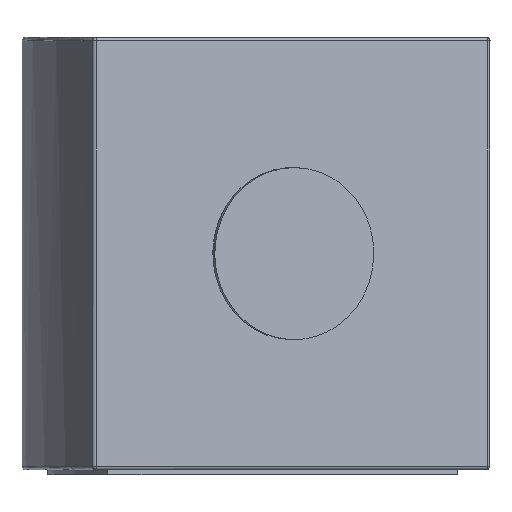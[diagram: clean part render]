
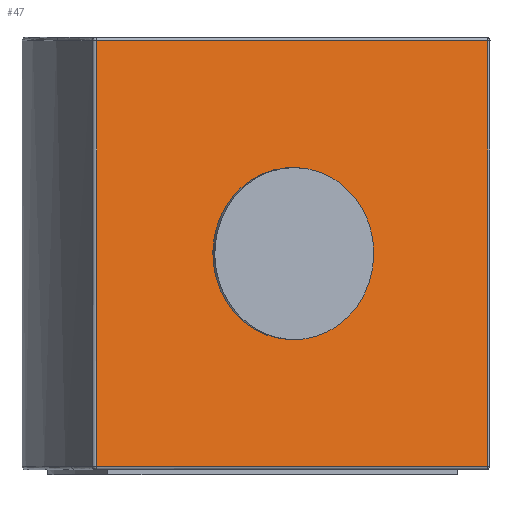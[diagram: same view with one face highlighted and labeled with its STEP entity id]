
A CAD part, left-side view. The second image highlights one B-rep face of the part: STEP entity #47.
In plain terms, the highlighted planar face has unit normal (-0.924, -0.383, 0).
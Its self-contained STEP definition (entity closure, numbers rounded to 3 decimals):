
#47=ADVANCED_FACE('',(#85),#444,.T.);
#85=FACE_OUTER_BOUND('',#123,.T.);
#123=EDGE_LOOP('',(#213,#214,#215,#216));
#213=ORIENTED_EDGE('',*,*,#312,.T.);
#214=ORIENTED_EDGE('',*,*,#313,.T.);
#215=ORIENTED_EDGE('',*,*,#311,.F.);
#216=ORIENTED_EDGE('',*,*,#282,.F.);
#282=EDGE_CURVE('',#411,#410,#340,.T.);
#311=EDGE_CURVE('',#410,#426,#351,.T.);
#312=EDGE_CURVE('',#411,#427,#352,.T.);
#313=EDGE_CURVE('',#427,#426,#353,.T.);
#340=B_SPLINE_CURVE_WITH_KNOTS('',1,(#914,#915),.UNSPECIFIED.,.F.,.F.,(2,
2),(-1.,0.),.UNSPECIFIED.);
#351=B_SPLINE_CURVE_WITH_KNOTS('',1,(#1042,#1043),.UNSPECIFIED.,.F.,.F.,
(2,2),(-1.,0.),.UNSPECIFIED.);
#352=B_SPLINE_CURVE_WITH_KNOTS('',1,(#1044,#1045),.UNSPECIFIED.,.F.,.F.,
(2,2),(0.,1.),.UNSPECIFIED.);
#353=B_SPLINE_CURVE_WITH_KNOTS('',1,(#1046,#1047),.UNSPECIFIED.,.F.,.F.,
(2,2),(0.,1.),.UNSPECIFIED.);
#410=VERTEX_POINT('',#874);
#411=VERTEX_POINT('',#875);
#426=VERTEX_POINT('',#890);
#427=VERTEX_POINT('',#891);
#444=PLANE('',#502);
#502=AXIS2_PLACEMENT_3D('',#780,#517,$);
#517=DIRECTION('',(-0.924,-0.383,0.));
#780=CARTESIAN_POINT('',(-209.709,108.156,4.8));
#874=CARTESIAN_POINT('',(-209.709,108.156,252.));
#875=CARTESIAN_POINT('',(-209.709,108.156,4.8));
#890=CARTESIAN_POINT('',(-115.568,-119.121,252.));
#891=CARTESIAN_POINT('',(-115.568,-119.121,4.8));
#914=CARTESIAN_POINT('',(-209.709,108.156,4.8));
#915=CARTESIAN_POINT('',(-209.709,108.156,252.));
#1042=CARTESIAN_POINT('',(-209.709,108.156,252.));
#1043=CARTESIAN_POINT('',(-115.568,-119.121,252.));
#1044=CARTESIAN_POINT('',(-209.709,108.156,4.8));
#1045=CARTESIAN_POINT('',(-115.568,-119.121,4.8));
#1046=CARTESIAN_POINT('',(-115.568,-119.121,4.8));
#1047=CARTESIAN_POINT('',(-115.568,-119.121,252.));
